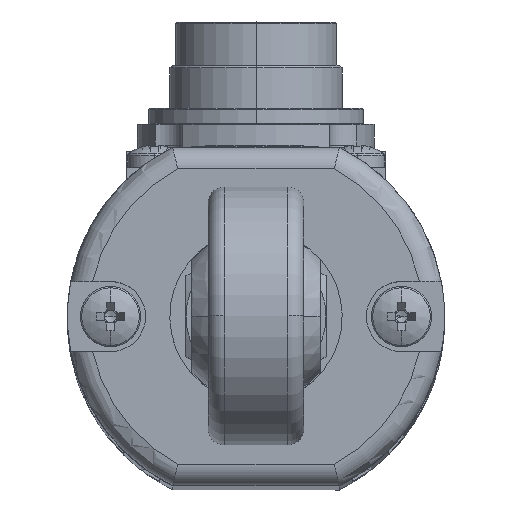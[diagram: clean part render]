
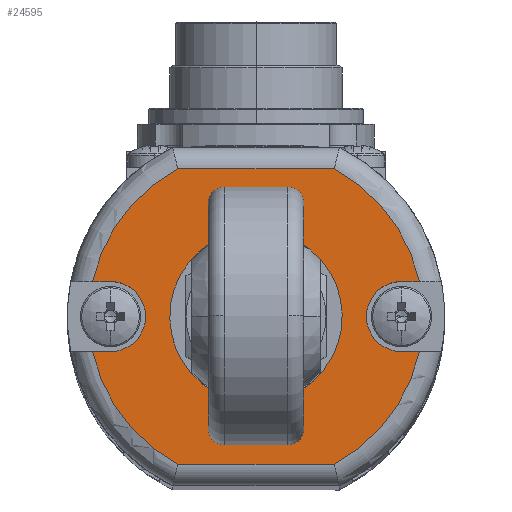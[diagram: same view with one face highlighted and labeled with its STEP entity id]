
A CAD part, top view. The second image highlights one B-rep face of the part: STEP entity #24595.
In plain terms, the highlighted planar face has unit normal (0, 0, 1) as drawn and (0, 0, -1) by its records, which use the part's own axes.
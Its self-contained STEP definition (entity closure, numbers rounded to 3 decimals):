
#3458 = EDGE_CURVE ( 'NONE', #6973, #6838, #18668, .T. ) ;
#3470 = EDGE_CURVE ( 'NONE', #6847, #6244, #18686, .T. ) ;
#3479 = EDGE_CURVE ( 'NONE', #6008, #6196, #18693, .T. ) ;
#3482 = EDGE_CURVE ( 'NONE', #5958, #6869, #18702, .T. ) ;
#3504 = EDGE_CURVE ( 'NONE', #6927, #6196, #18732, .T. ) ;
#3505 = EDGE_CURVE ( 'NONE', #5992, #6927, #18733, .T. ) ;
#3506 = EDGE_CURVE ( 'NONE', #6918, #5992, #18720, .T. ) ;
#3507 = EDGE_CURVE ( 'NONE', #6918, #6329, #18735, .T. ) ;
#3508 = EDGE_CURVE ( 'NONE', #6329, #5958, #18738, .T. ) ;
#3509 = EDGE_CURVE ( 'NONE', #6838, #6869, #18739, .T. ) ;
#3510 = EDGE_CURVE ( 'NONE', #6243, #6973, #18741, .T. ) ;
#3511 = EDGE_CURVE ( 'NONE', #6863, #6243, #18736, .T. ) ;
#3512 = EDGE_CURVE ( 'NONE', #6863, #6317, #18743, .T. ) ;
#3513 = EDGE_CURVE ( 'NONE', #6317, #6008, #18746, .T. ) ;
#3514 = EDGE_CURVE ( 'NONE', #6244, #6847, #18747, .T. ) ;
#5958 = VERTEX_POINT ( 'NONE', #28703 ) ;
#5992 = VERTEX_POINT ( 'NONE', #28780 ) ;
#6008 = VERTEX_POINT ( 'NONE', #28810 ) ;
#6196 = VERTEX_POINT ( 'NONE', #29151 ) ;
#6243 = VERTEX_POINT ( 'NONE', #29236 ) ;
#6244 = VERTEX_POINT ( 'NONE', #29238 ) ;
#6317 = VERTEX_POINT ( 'NONE', #29370 ) ;
#6329 = VERTEX_POINT ( 'NONE', #29393 ) ;
#6838 = VERTEX_POINT ( 'NONE', #29757 ) ;
#6847 = VERTEX_POINT ( 'NONE', #29770 ) ;
#6863 = VERTEX_POINT ( 'NONE', #29790 ) ;
#6869 = VERTEX_POINT ( 'NONE', #29796 ) ;
#6918 = VERTEX_POINT ( 'NONE', #29857 ) ;
#6927 = VERTEX_POINT ( 'NONE', #29867 ) ;
#6973 = VERTEX_POINT ( 'NONE', #29927 ) ;
#15747 = AXIS2_PLACEMENT_3D ( 'NONE', #20828, #20829, #20830 ) ;
#15753 = AXIS2_PLACEMENT_3D ( 'NONE', #20858, #20859, #20860 ) ;
#15757 = AXIS2_PLACEMENT_3D ( 'NONE', #20897, #20898, #20899 ) ;
#15758 = AXIS2_PLACEMENT_3D ( 'NONE', #20929, #20930, #20931 ) ;
#15769 = AXIS2_PLACEMENT_3D ( 'NONE', #20999, #21000, #21001 ) ;
#15770 = AXIS2_PLACEMENT_3D ( 'NONE', #21004, #21005, #21006 ) ;
#15771 = AXIS2_PLACEMENT_3D ( 'NONE', #21011, #21012, #21013 ) ;
#15772 = AXIS2_PLACEMENT_3D ( 'NONE', #21017, #21018, #21019 ) ;
#15773 = AXIS2_PLACEMENT_3D ( 'NONE', #21022, #21023, #21024 ) ;
#18668 = CIRCLE ( 'NONE', #15747, 3.25 ) ;
#18686 = CIRCLE ( 'NONE', #15753, 6.5 ) ;
#18693 = CIRCLE ( 'NONE', #15757, 15.5 ) ;
#18702 = CIRCLE ( 'NONE', #15758, 15.5 ) ;
#18720 = LINE ( 'NONE', #20998, #18737 ) ;
#18732 = LINE ( 'NONE', #20988, #18734 ) ;
#18733 = CIRCLE ( 'NONE', #15769, 3.25 ) ;
#18734 = VECTOR ( 'NONE', #20989, 1000. ) ;
#18735 = CIRCLE ( 'NONE', #15770, 15.5 ) ;
#18736 = LINE ( 'NONE', #21010, #18745 ) ;
#18737 = VECTOR ( 'NONE', #20993, 1000. ) ;
#18738 = LINE ( 'NONE', #21002, #18740 ) ;
#18739 = LINE ( 'NONE', #21007, #18742 ) ;
#18740 = VECTOR ( 'NONE', #20997, 1000. ) ;
#18741 = CIRCLE ( 'NONE', #15771, 3.25 ) ;
#18742 = VECTOR ( 'NONE', #21008, 1000. ) ;
#18743 = CIRCLE ( 'NONE', #15772, 15.5 ) ;
#18745 = VECTOR ( 'NONE', #21003, 1000. ) ;
#18746 = LINE ( 'NONE', #21014, #18748 ) ;
#18747 = CIRCLE ( 'NONE', #15773, 6.5 ) ;
#18748 = VECTOR ( 'NONE', #21009, 1000. ) ;
#19638 = ORIENTED_EDGE ( 'NONE', *, *, #3512, .T. ) ;
#19696 = ORIENTED_EDGE ( 'NONE', *, *, #3514, .F. ) ;
#19740 = ORIENTED_EDGE ( 'NONE', *, *, #3506, .F. ) ;
#19807 = ORIENTED_EDGE ( 'NONE', *, *, #3479, .T. ) ;
#19837 = ORIENTED_EDGE ( 'NONE', *, *, #3511, .F. ) ;
#19850 = ORIENTED_EDGE ( 'NONE', *, *, #3510, .F. ) ;
#19852 = ORIENTED_EDGE ( 'NONE', *, *, #3508, .T. ) ;
#19882 = ORIENTED_EDGE ( 'NONE', *, *, #3513, .T. ) ;
#19890 = ORIENTED_EDGE ( 'NONE', *, *, #3470, .F. ) ;
#20828 = CARTESIAN_POINT ( 'NONE',  ( 13.5, 0., 0. ) ) ;
#20829 = DIRECTION ( 'NONE',  ( 0., 0., -1. ) ) ;
#20830 = DIRECTION ( 'NONE',  ( -1., 0., 0. ) ) ;
#20858 = CARTESIAN_POINT ( 'NONE',  ( 0., 0., 0. ) ) ;
#20859 = DIRECTION ( 'NONE',  ( 0., 0., -1. ) ) ;
#20860 = DIRECTION ( 'NONE',  ( -1., 0., 0. ) ) ;
#20897 = CARTESIAN_POINT ( 'NONE',  ( 0., 0., 0. ) ) ;
#20898 = DIRECTION ( 'NONE',  ( 0., 0., -1. ) ) ;
#20899 = DIRECTION ( 'NONE',  ( 1., 0., 0. ) ) ;
#20929 = CARTESIAN_POINT ( 'NONE',  ( 0., 0., 0. ) ) ;
#20930 = DIRECTION ( 'NONE',  ( 0., 0., -1. ) ) ;
#20931 = DIRECTION ( 'NONE',  ( 1., 0., 0. ) ) ;
#20988 = CARTESIAN_POINT ( 'NONE',  ( -19.369, -3.25, 0. ) ) ;
#20989 = DIRECTION ( 'NONE',  ( -1., 0., 0. ) ) ;
#20993 = DIRECTION ( 'NONE',  ( 1., 0., 0. ) ) ;
#20997 = DIRECTION ( 'NONE',  ( 1., 0., 0. ) ) ;
#20998 = CARTESIAN_POINT ( 'NONE',  ( -13.5, 3.25, 0. ) ) ;
#20999 = CARTESIAN_POINT ( 'NONE',  ( -13.5, 0., 0. ) ) ;
#21000 = DIRECTION ( 'NONE',  ( 0., 0., -1. ) ) ;
#21001 = DIRECTION ( 'NONE',  ( 1., 0., 0. ) ) ;
#21002 = CARTESIAN_POINT ( 'NONE',  ( 0., 13.7, 0. ) ) ;
#21003 = DIRECTION ( 'NONE',  ( -1., 0., 0. ) ) ;
#21004 = CARTESIAN_POINT ( 'NONE',  ( 0., 0., 0. ) ) ;
#21005 = DIRECTION ( 'NONE',  ( 0., 0., -1. ) ) ;
#21006 = DIRECTION ( 'NONE',  ( 1., 0., 0. ) ) ;
#21007 = CARTESIAN_POINT ( 'NONE',  ( 13.5, 3.25, 0. ) ) ;
#21008 = DIRECTION ( 'NONE',  ( 1., 0., 0. ) ) ;
#21009 = DIRECTION ( 'NONE',  ( -1., 0., 0. ) ) ;
#21010 = CARTESIAN_POINT ( 'NONE',  ( 19.369, -3.25, 0. ) ) ;
#21011 = CARTESIAN_POINT ( 'NONE',  ( 13.5, 0., 0. ) ) ;
#21012 = DIRECTION ( 'NONE',  ( 0., 0., -1. ) ) ;
#21013 = DIRECTION ( 'NONE',  ( -1., 0., 0. ) ) ;
#21014 = CARTESIAN_POINT ( 'NONE',  ( 0., -13.7, 0. ) ) ;
#21017 = CARTESIAN_POINT ( 'NONE',  ( 0., 0., 0. ) ) ;
#21018 = DIRECTION ( 'NONE',  ( 0., 0., -1. ) ) ;
#21019 = DIRECTION ( 'NONE',  ( 1., 0., 0. ) ) ;
#21022 = CARTESIAN_POINT ( 'NONE',  ( 0., 0., 0. ) ) ;
#21023 = DIRECTION ( 'NONE',  ( 0., 0., -1. ) ) ;
#21024 = DIRECTION ( 'NONE',  ( -1., 0., 0. ) ) ;
#24595 = ADVANCED_FACE ( 'NONE', ( #30525, #30530 ), #29304, .F. ) ;
#25910 = AXIS2_PLACEMENT_3D ( 'NONE', #29319, #29321, #29323 ) ;
#28703 = CARTESIAN_POINT ( 'NONE',  ( 7.25, 13.7, 0. ) ) ;
#28780 = CARTESIAN_POINT ( 'NONE',  ( -13.5, 3.25, 0. ) ) ;
#28810 = CARTESIAN_POINT ( 'NONE',  ( -7.25, -13.7, 0. ) ) ;
#29151 = CARTESIAN_POINT ( 'NONE',  ( -15.155, -3.25, 0. ) ) ;
#29236 = CARTESIAN_POINT ( 'NONE',  ( 13.5, -3.25, 0. ) ) ;
#29238 = CARTESIAN_POINT ( 'NONE',  ( -6.5, 0., 0. ) ) ;
#29304 = PLANE ( 'NONE',  #25910 ) ;
#29319 = CARTESIAN_POINT ( 'NONE',  ( 0., 0., 0. ) ) ;
#29321 = DIRECTION ( 'NONE',  ( 0., 0., 1. ) ) ;
#29323 = DIRECTION ( 'NONE',  ( 1., 0., 0. ) ) ;
#29370 = CARTESIAN_POINT ( 'NONE',  ( 7.25, -13.7, 0. ) ) ;
#29393 = CARTESIAN_POINT ( 'NONE',  ( -7.25, 13.7, 0. ) ) ;
#29757 = CARTESIAN_POINT ( 'NONE',  ( 13.5, 3.25, 0. ) ) ;
#29770 = CARTESIAN_POINT ( 'NONE',  ( 6.5, 0., 0. ) ) ;
#29790 = CARTESIAN_POINT ( 'NONE',  ( 15.155, -3.25, 0. ) ) ;
#29796 = CARTESIAN_POINT ( 'NONE',  ( 15.155, 3.25, 0. ) ) ;
#29857 = CARTESIAN_POINT ( 'NONE',  ( -15.155, 3.25, 0. ) ) ;
#29867 = CARTESIAN_POINT ( 'NONE',  ( -13.5, -3.25, 0. ) ) ;
#29927 = CARTESIAN_POINT ( 'NONE',  ( 10.25, 0., 0. ) ) ;
#30525 = FACE_OUTER_BOUND ( 'NONE', #43438, .T. ) ;
#30530 = FACE_BOUND ( 'NONE', #44934, .T. ) ;
#41656 = ORIENTED_EDGE ( 'NONE', *, *, #3504, .F. ) ;
#41693 = ORIENTED_EDGE ( 'NONE', *, *, #3458, .F. ) ;
#43438 = EDGE_LOOP ( 'NONE', ( #19807, #41656, #44661, #19740, #44739, #19852, #44647, #44757, #41693, #19850, #19837, #19638, #19882 ) ) ;
#44647 = ORIENTED_EDGE ( 'NONE', *, *, #3482, .T. ) ;
#44661 = ORIENTED_EDGE ( 'NONE', *, *, #3505, .F. ) ;
#44739 = ORIENTED_EDGE ( 'NONE', *, *, #3507, .T. ) ;
#44757 = ORIENTED_EDGE ( 'NONE', *, *, #3509, .F. ) ;
#44934 = EDGE_LOOP ( 'NONE', ( #19696, #19890 ) ) ;
